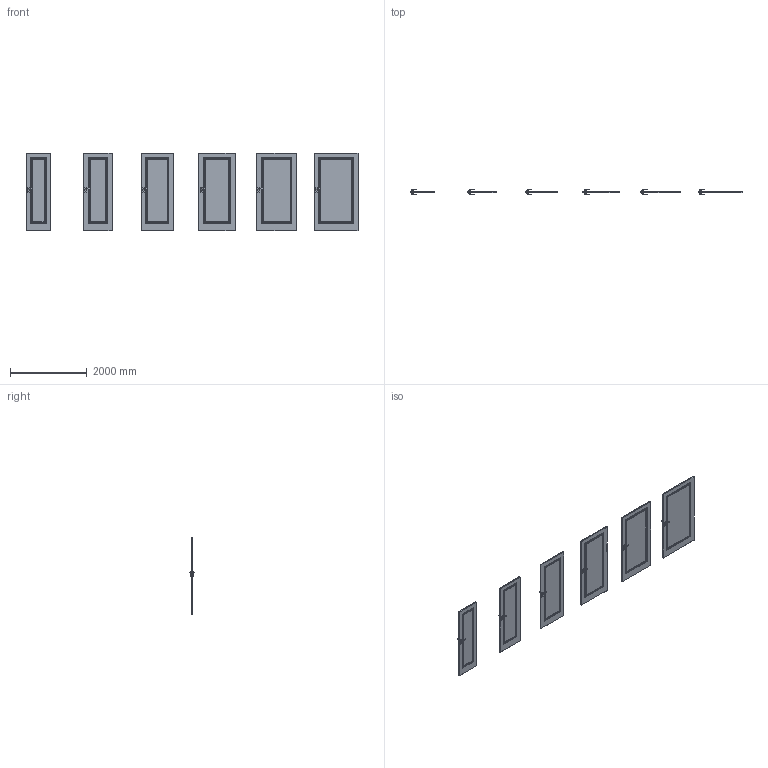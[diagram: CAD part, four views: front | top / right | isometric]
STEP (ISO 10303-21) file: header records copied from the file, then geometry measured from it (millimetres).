
FILE_DESCRIPTION(/* description */ (''),/* implementation_level */ '2;1');
FILE_NAME(/* name */ '049698_A_2-Skrzydło VECTOR U_ polska norma _PN__ odwrotna przylga..stp',/* time_stamp */ '2024-02-14T08:24:55+01:00',/* author */ (''),/* organization */ (''),/* preprocessor_version */ 'ST-DEVELOPER v16',/* originating_system */ 'SIEMENS PLM Software NX 11.0',/* authorisation */ '');
FILE_SCHEMA (('AUTOMOTIVE_DESIGN { 1 0 10303 214 3 1 1 1 }'));
Products named in the file (1): bkni322C7D19u3sd
Bounding box: 8639 x 153.27 x 2027 mm (x, y, z)
Volume: 421057308 mm3; surface area: 23376224.9 mm2
Topology: 30 solids, 30 shells, 2520 faces, 5700 edges, 3216 vertices
Faces by surface type: bspline 1152, plane 936, cylinder 264, sphere 168
Entity records: 74020 total; most frequent: CARTESIAN_POINT 26029, ORIENTED_EDGE 11064, DIRECTION 8054, EDGE_CURVE 5532, LINE 3492, VECTOR 3492, VERTEX_POINT 3216, EDGE_LOOP 2688
